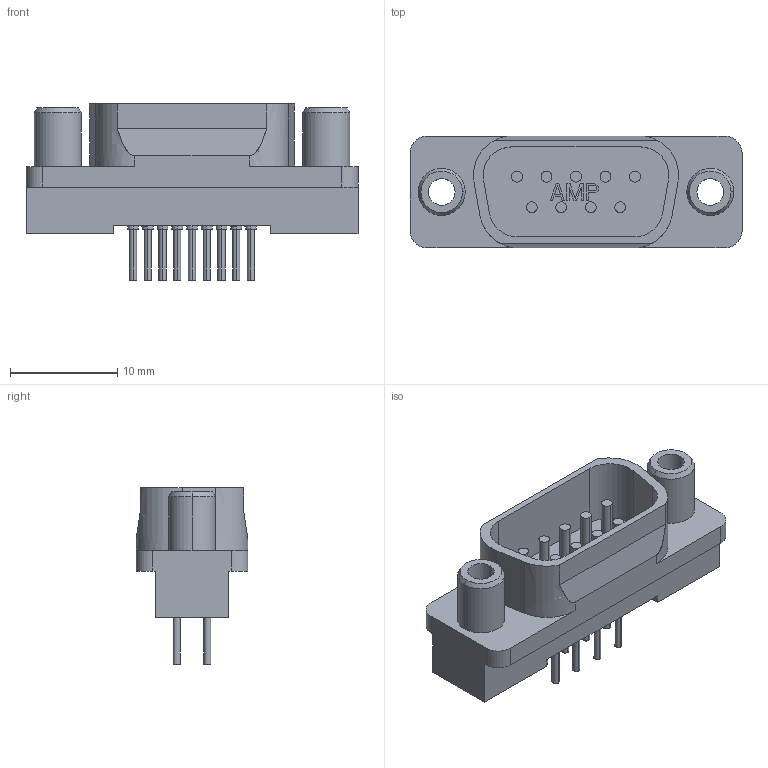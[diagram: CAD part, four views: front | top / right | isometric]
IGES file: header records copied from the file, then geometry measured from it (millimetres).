
Start section:  PTC IGES file: c-5745071-04-a-3d.igs
Global section: file name: c-5745071-04-a-3d.igs; native system: Pro/ENGINEER by Parametric Technology Corporation; preprocessor: 2005450; author: workeradm; organization: Unknown; date: 070904.225406; units: millimetre
Bounding box: 30.89 x 10.41 x 16.41 mm (x, y, z)
Surface area: 2228.7 mm2 (no closed solid volume)
Topology: 0 solids, 0 shells, 366 faces, 1918 edges, 1918 vertices
Faces by surface type: bspline 284, revolution 82
